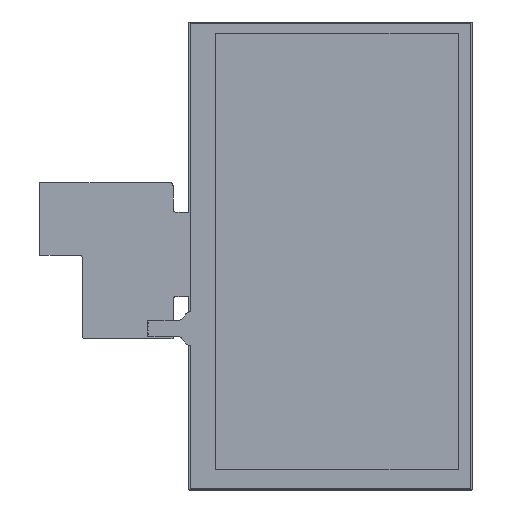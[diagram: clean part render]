
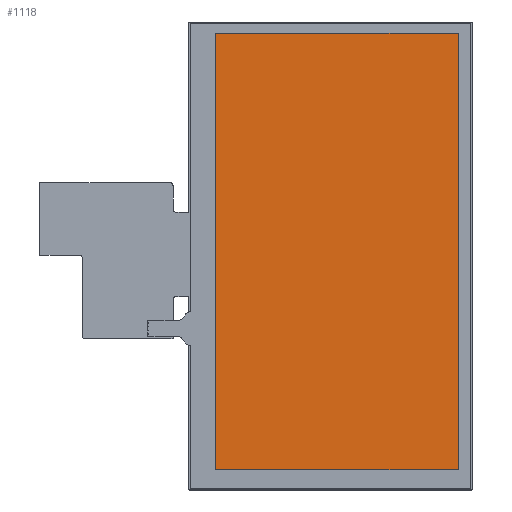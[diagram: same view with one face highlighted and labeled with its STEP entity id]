
A CAD part, top view. The second image highlights one B-rep face of the part: STEP entity #1118.
In plain terms, the highlighted planar face has unit normal (0, 0, 1).
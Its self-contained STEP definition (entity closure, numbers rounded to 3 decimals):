
#208=DIRECTION('',(0.,1.,0.));
#209=VECTOR('',#208,153.68);
#210=CARTESIAN_POINT('',(42.76,-76.84,1.4));
#211=LINE('',#210,#209);
#212=DIRECTION('',(1.,0.,0.));
#213=VECTOR('',#212,85.52);
#214=CARTESIAN_POINT('',(-42.76,-76.84,1.4));
#215=LINE('',#214,#213);
#216=DIRECTION('',(0.,-1.,0.));
#217=VECTOR('',#216,153.68);
#218=CARTESIAN_POINT('',(-42.76,76.84,1.4));
#219=LINE('',#218,#217);
#220=DIRECTION('',(-1.,0.,0.));
#221=VECTOR('',#220,85.52);
#222=CARTESIAN_POINT('',(42.76,76.84,1.4));
#223=LINE('',#222,#221);
#860=CARTESIAN_POINT('',(42.76,-76.84,1.4));
#861=CARTESIAN_POINT('',(42.76,76.84,1.4));
#862=VERTEX_POINT('',#860);
#863=VERTEX_POINT('',#861);
#864=CARTESIAN_POINT('',(-42.76,76.84,1.4));
#865=VERTEX_POINT('',#864);
#866=CARTESIAN_POINT('',(-42.76,-76.84,1.4));
#867=VERTEX_POINT('',#866);
#1107=CARTESIAN_POINT('',(-51.705,80.33,1.4));
#1108=DIRECTION('',(0.,0.,1.));
#1109=DIRECTION('',(0.,-1.,0.));
#1110=AXIS2_PLACEMENT_3D('',#1107,#1108,#1109);
#1111=PLANE('',#1110);
#1112=ORIENTED_EDGE('',*,*,#1059,.F.);
#1113=ORIENTED_EDGE('',*,*,#1074,.F.);
#1114=ORIENTED_EDGE('',*,*,#1088,.F.);
#1115=ORIENTED_EDGE('',*,*,#1101,.F.);
#1116=EDGE_LOOP('',(#1112,#1113,#1114,#1115));
#1117=FACE_OUTER_BOUND('',#1116,.F.);
#1059=EDGE_CURVE('',#862,#863,#211,.T.);
#1074=EDGE_CURVE('',#867,#862,#215,.T.);
#1088=EDGE_CURVE('',#865,#867,#219,.T.);
#1101=EDGE_CURVE('',#863,#865,#223,.T.);
#1118=ADVANCED_FACE('',(#1117),#1111,.T.);
